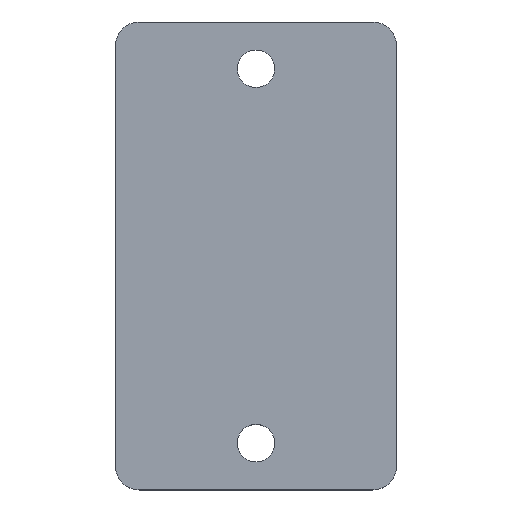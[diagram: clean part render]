
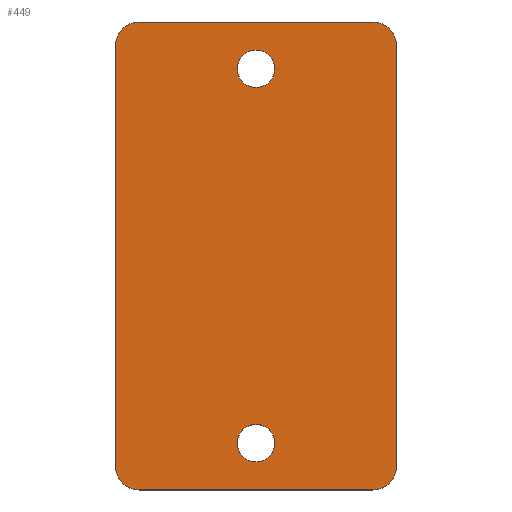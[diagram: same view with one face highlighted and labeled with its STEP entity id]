
A CAD part, top view. The second image highlights one B-rep face of the part: STEP entity #449.
In plain terms, the highlighted planar face has unit normal (0, 0, 1).
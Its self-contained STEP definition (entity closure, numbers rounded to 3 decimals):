
#57=CARTESIAN_POINT('Axis2P3D Location',(0.,40.,8.)) ;
#61=CARTESIAN_POINT('Vertex',(-4.,40.,8.)) ;
#63=CARTESIAN_POINT('Vertex',(4.,40.,8.)) ;
#92=CARTESIAN_POINT('Axis2P3D Location',(0.,40.,8.)) ;
#114=CARTESIAN_POINT('Axis2P3D Location',(0.,-40.,8.)) ;
#118=CARTESIAN_POINT('Vertex',(-4.,-40.,8.)) ;
#120=CARTESIAN_POINT('Vertex',(4.,-40.,8.)) ;
#149=CARTESIAN_POINT('Axis2P3D Location',(0.,-40.,8.)) ;
#171=CARTESIAN_POINT('Axis2P3D Location',(25.,45.,8.)) ;
#175=CARTESIAN_POINT('Vertex',(25.,50.,8.)) ;
#177=CARTESIAN_POINT('Vertex',(30.,45.,8.)) ;
#217=CARTESIAN_POINT('Vertex',(-25.,50.,8.)) ;
#220=CARTESIAN_POINT('Line Origine',(0.,50.,8.)) ;
#242=CARTESIAN_POINT('Axis2P3D Location',(-25.,45.,8.)) ;
#246=CARTESIAN_POINT('Vertex',(-30.,45.,8.)) ;
#279=CARTESIAN_POINT('Vertex',(30.,-45.,8.)) ;
#287=CARTESIAN_POINT('Line Origine',(30.,0.,8.)) ;
#304=CARTESIAN_POINT('Axis2P3D Location',(25.,-45.,8.)) ;
#308=CARTESIAN_POINT('Vertex',(25.,-50.,8.)) ;
#341=CARTESIAN_POINT('Vertex',(-30.,-45.,8.)) ;
#344=CARTESIAN_POINT('Line Origine',(-30.,0.,8.)) ;
#372=CARTESIAN_POINT('Vertex',(-25.,-50.,8.)) ;
#380=CARTESIAN_POINT('Line Origine',(0.,-50.,8.)) ;
#421=CARTESIAN_POINT('Axis2P3D Location',(0.,0.,8.)) ;
#426=CARTESIAN_POINT('Axis2P3D Location',(-25.,-45.,8.)) ;
#58=DIRECTION('Axis2P3D Direction',(0.,0.,1.)) ;
#93=DIRECTION('Axis2P3D Direction',(0.,0.,1.)) ;
#115=DIRECTION('Axis2P3D Direction',(0.,0.,1.)) ;
#150=DIRECTION('Axis2P3D Direction',(0.,0.,1.)) ;
#172=DIRECTION('Axis2P3D Direction',(0.,-0.,1.)) ;
#221=DIRECTION('Vector Direction',(1.,0.,0.)) ;
#243=DIRECTION('Axis2P3D Direction',(0.,0.,1.)) ;
#288=DIRECTION('Vector Direction',(0.,-1.,0.)) ;
#305=DIRECTION('Axis2P3D Direction',(0.,0.,1.)) ;
#345=DIRECTION('Vector Direction',(0.,1.,0.)) ;
#381=DIRECTION('Vector Direction',(-1.,0.,0.)) ;
#422=DIRECTION('Axis2P3D Direction',(0.,0.,1.)) ;
#423=DIRECTION('Axis2P3D XDirection',(1.,0.,0.)) ;
#427=DIRECTION('Axis2P3D Direction',(0.,0.,1.)) ;
#59=AXIS2_PLACEMENT_3D('Circle Axis2P3D',#57,#58,$) ;
#94=AXIS2_PLACEMENT_3D('Circle Axis2P3D',#92,#93,$) ;
#116=AXIS2_PLACEMENT_3D('Circle Axis2P3D',#114,#115,$) ;
#151=AXIS2_PLACEMENT_3D('Circle Axis2P3D',#149,#150,$) ;
#173=AXIS2_PLACEMENT_3D('Circle Axis2P3D',#171,#172,$) ;
#244=AXIS2_PLACEMENT_3D('Circle Axis2P3D',#242,#243,$) ;
#306=AXIS2_PLACEMENT_3D('Circle Axis2P3D',#304,#305,$) ;
#424=AXIS2_PLACEMENT_3D('Plane Axis2P3D',#421,#422,#423) ;
#428=AXIS2_PLACEMENT_3D('Circle Axis2P3D',#426,#427,$) ;
#432=ORIENTED_EDGE('',*,*,#384,.T.) ;
#433=ORIENTED_EDGE('',*,*,#310,.F.) ;
#434=ORIENTED_EDGE('',*,*,#291,.T.) ;
#435=ORIENTED_EDGE('',*,*,#179,.F.) ;
#436=ORIENTED_EDGE('',*,*,#224,.T.) ;
#437=ORIENTED_EDGE('',*,*,#248,.F.) ;
#438=ORIENTED_EDGE('',*,*,#348,.T.) ;
#439=ORIENTED_EDGE('',*,*,#430,.F.) ;
#442=ORIENTED_EDGE('',*,*,#65,.F.) ;
#443=ORIENTED_EDGE('',*,*,#96,.F.) ;
#446=ORIENTED_EDGE('',*,*,#122,.F.) ;
#447=ORIENTED_EDGE('',*,*,#153,.F.) ;
#444=FACE_BOUND('',#441,.T.) ;
#448=FACE_BOUND('',#445,.T.) ;
#222=VECTOR('Line Direction',#221,1.) ;
#289=VECTOR('Line Direction',#288,1.) ;
#346=VECTOR('Line Direction',#345,1.) ;
#382=VECTOR('Line Direction',#381,1.) ;
#449=ADVANCED_FACE('PartBody',(#440,#444,#448),#425,.T.) ;
#60=CIRCLE('generated circle',#59,4.) ;
#95=CIRCLE('generated circle',#94,4.) ;
#117=CIRCLE('generated circle',#116,4.) ;
#152=CIRCLE('generated circle',#151,4.) ;
#174=CIRCLE('generated circle',#173,5.) ;
#245=CIRCLE('generated circle',#244,5.) ;
#307=CIRCLE('generated circle',#306,5.) ;
#429=CIRCLE('generated circle',#428,5.) ;
#65=EDGE_CURVE('',#62,#64,#60,.T.) ;
#96=EDGE_CURVE('',#64,#62,#95,.T.) ;
#122=EDGE_CURVE('',#119,#121,#117,.T.) ;
#153=EDGE_CURVE('',#121,#119,#152,.T.) ;
#179=EDGE_CURVE('',#176,#178,#174,.F.) ;
#224=EDGE_CURVE('',#176,#218,#223,.F.) ;
#248=EDGE_CURVE('',#247,#218,#245,.F.) ;
#291=EDGE_CURVE('',#280,#178,#290,.F.) ;
#310=EDGE_CURVE('',#280,#309,#307,.F.) ;
#348=EDGE_CURVE('',#247,#342,#347,.F.) ;
#384=EDGE_CURVE('',#373,#309,#383,.F.) ;
#430=EDGE_CURVE('',#373,#342,#429,.F.) ;
#431=EDGE_LOOP('',(#432,#433,#434,#435,#436,#437,#438,#439)) ;
#441=EDGE_LOOP('',(#442,#443)) ;
#445=EDGE_LOOP('',(#446,#447)) ;
#440=FACE_OUTER_BOUND('',#431,.T.) ;
#223=LINE('Line',#220,#222) ;
#290=LINE('Line',#287,#289) ;
#347=LINE('Line',#344,#346) ;
#383=LINE('Line',#380,#382) ;
#425=PLANE('Plane',#424) ;
#62=VERTEX_POINT('',#61) ;
#64=VERTEX_POINT('',#63) ;
#119=VERTEX_POINT('',#118) ;
#121=VERTEX_POINT('',#120) ;
#176=VERTEX_POINT('',#175) ;
#178=VERTEX_POINT('',#177) ;
#218=VERTEX_POINT('',#217) ;
#247=VERTEX_POINT('',#246) ;
#280=VERTEX_POINT('',#279) ;
#309=VERTEX_POINT('',#308) ;
#342=VERTEX_POINT('',#341) ;
#373=VERTEX_POINT('',#372) ;
